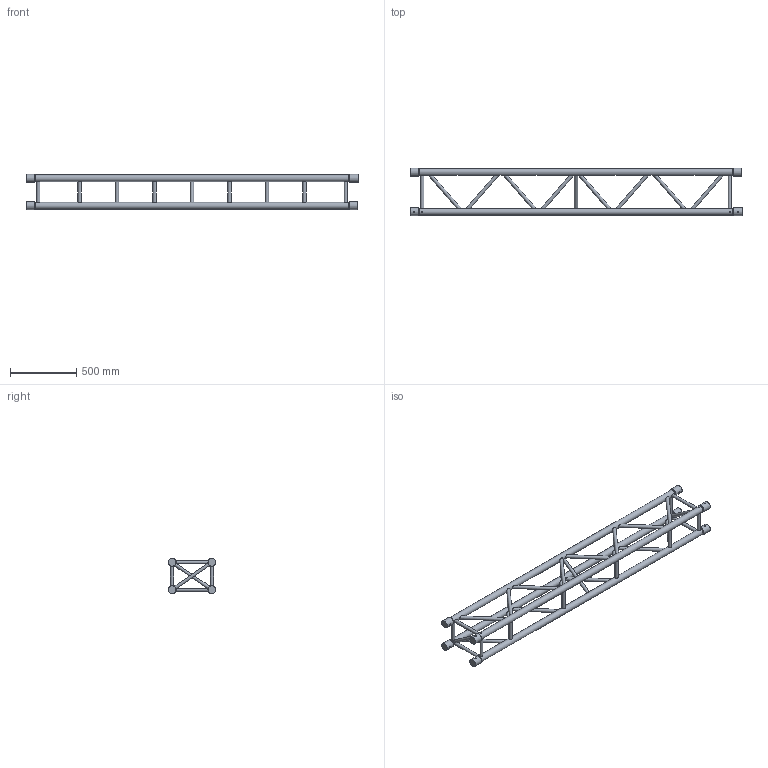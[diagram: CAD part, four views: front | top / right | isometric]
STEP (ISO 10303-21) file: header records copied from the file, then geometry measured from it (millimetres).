
FILE_DESCRIPTION(/* description */ (''),/* implementation_level */ '2;1');
FILE_NAME(/* name */ 'C:\Users\adrian.toca\Desktop\111110051.stp',/* time_stamp */ '2016-09-14T15:07:39+03:00',/* author */ ('adrian.toca'),/* organization */ (''),/* preprocessor_version */ 'ST-DEVELOPER v15.6',/* originating_system */ 'Autodesk Inventor 2015',/* authorisation */ '');
FILE_SCHEMA (('AUTOMOTIVE_DESIGN { 1 0 10303 214 3 1 1 }'));
Length unit declared in the file: millimetre
Products named in the file (1): 260030905
Bounding box: 2500 x 357.8 x 265.8 mm (x, y, z)
Volume: 24391521.8 mm3; surface area: 2355267.5 mm2
Topology: 16 solids, 22 shells, 220 faces, 428 edges, 264 vertices
Faces by surface type: cylinder 114, plane 98, cone 8
Full cylindrical faces by diameter (mm): 10 x8, 25 x34, 50 x4, 58.8 x8
Entity records: 7231 total; most frequent: CARTESIAN_POINT 3259, DIRECTION 736, ORIENTED_EDGE 660, EDGE_LOOP 356, AXIS2_PLACEMENT_3D 347, EDGE_CURVE 292, VERTEX_POINT 214, STYLED_ITEM 194
